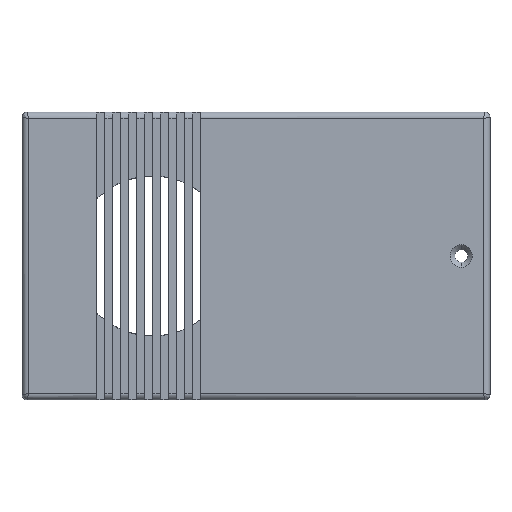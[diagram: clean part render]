
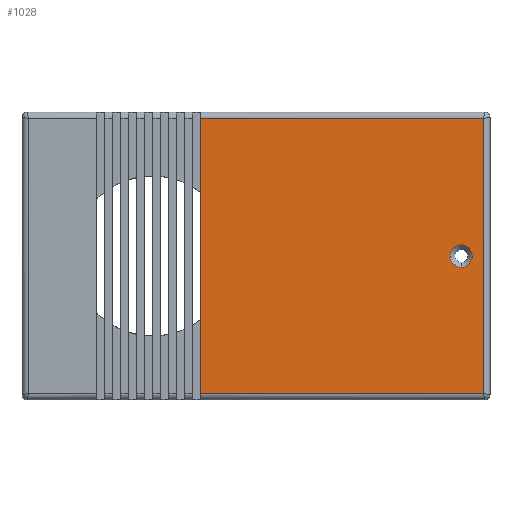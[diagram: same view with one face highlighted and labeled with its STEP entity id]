
A CAD part, front view. The second image highlights one B-rep face of the part: STEP entity #1028.
In plain terms, the highlighted planar face has unit normal (0, -1, 0).
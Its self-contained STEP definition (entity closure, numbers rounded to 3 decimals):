
#25 = ORIENTED_EDGE ( 'NONE', *, *, #2438, .T. ) ;
#147 = VERTEX_POINT ( 'NONE', #1890 ) ;
#182 = VERTEX_POINT ( 'NONE', #1798 ) ;
#202 = VECTOR ( 'NONE', #417, 1000. ) ;
#417 = DIRECTION ( 'NONE',  ( -1., 0., 0. ) ) ;
#650 = CARTESIAN_POINT ( 'NONE',  ( 38.5, 0., 2.1 ) ) ;
#718 = AXIS2_PLACEMENT_3D ( 'NONE', #1049, #2880, #1306 ) ;
#782 = CARTESIAN_POINT ( 'NONE',  ( -10.4, 0., 0. ) ) ;
#786 = CARTESIAN_POINT ( 'NONE',  ( 42.7, 0., -25.8 ) ) ;
#799 = CARTESIAN_POINT ( 'NONE',  ( -10.4, 0., -25.8 ) ) ;
#809 = CIRCLE ( 'NONE', #718, 2.1 ) ;
#819 = AXIS2_PLACEMENT_3D ( 'NONE', #1143, #2966, #1395 ) ;
#842 = VERTEX_POINT ( 'NONE', #1934 ) ;
#877 = LINE ( 'NONE', #3007, #202 ) ;
#878 = VERTEX_POINT ( 'NONE', #650 ) ;
#1028 = ADVANCED_FACE ( 'NONE', ( #1050, #1888 ), #1896, .F. ) ;
#1049 = CARTESIAN_POINT ( 'NONE',  ( 38.5, 0., 0. ) ) ;
#1050 = FACE_BOUND ( 'NONE', #1312, .T. ) ;
#1109 = EDGE_CURVE ( 'NONE', #878, #842, #809, .T. ) ;
#1115 = EDGE_CURVE ( 'NONE', #1172, #182, #2098, .T. ) ;
#1127 = EDGE_CURVE ( 'NONE', #1172, #1397, #2178, .T. ) ;
#1143 = CARTESIAN_POINT ( 'NONE',  ( 0., 0., 0. ) ) ;
#1153 = EDGE_LOOP ( 'NONE', ( #1545, #1607, #1734, #1577 ) ) ;
#1172 = VERTEX_POINT ( 'NONE', #799 ) ;
#1179 = EDGE_CURVE ( 'NONE', #1397, #147, #2010, .T. ) ;
#1222 = EDGE_CURVE ( 'NONE', #147, #182, #877, .T. ) ;
#1306 = DIRECTION ( 'NONE',  ( 0., 0., 1. ) ) ;
#1312 = EDGE_LOOP ( 'NONE', ( #25, #2342 ) ) ;
#1320 = CARTESIAN_POINT ( 'NONE',  ( 42.7, 0., 0. ) ) ;
#1381 = CARTESIAN_POINT ( 'NONE',  ( 38.5, 0., 0. ) ) ;
#1395 = DIRECTION ( 'NONE',  ( 0., 0., 1. ) ) ;
#1397 = VERTEX_POINT ( 'NONE', #786 ) ;
#1415 = VECTOR ( 'NONE', #2618, 1000. ) ;
#1545 = ORIENTED_EDGE ( 'NONE', *, *, #1115, .F. ) ;
#1577 = ORIENTED_EDGE ( 'NONE', *, *, #1222, .T. ) ;
#1607 = ORIENTED_EDGE ( 'NONE', *, *, #1127, .T. ) ;
#1638 = DIRECTION ( 'NONE',  ( 0., 0., 1. ) ) ;
#1734 = ORIENTED_EDGE ( 'NONE', *, *, #1179, .T. ) ;
#1798 = CARTESIAN_POINT ( 'NONE',  ( -10.4, 0., 25.8 ) ) ;
#1827 = DIRECTION ( 'NONE',  ( 0., 0., 1. ) ) ;
#1888 = FACE_OUTER_BOUND ( 'NONE', #1153, .T. ) ;
#1890 = CARTESIAN_POINT ( 'NONE',  ( 42.7, 0., 25.8 ) ) ;
#1896 = PLANE ( 'NONE',  #819 ) ;
#1934 = CARTESIAN_POINT ( 'NONE',  ( 38.5, 0., -2.1 ) ) ;
#2010 = LINE ( 'NONE', #1320, #3312 ) ;
#2078 = DIRECTION ( 'NONE',  ( 1., 0., 0. ) ) ;
#2098 = LINE ( 'NONE', #782, #1415 ) ;
#2178 = LINE ( 'NONE', #2349, #2730 ) ;
#2342 = ORIENTED_EDGE ( 'NONE', *, *, #1109, .T. ) ;
#2349 = CARTESIAN_POINT ( 'NONE',  ( 0., 0., -25.8 ) ) ;
#2393 = AXIS2_PLACEMENT_3D ( 'NONE', #1381, #3202, #1638 ) ;
#2438 = EDGE_CURVE ( 'NONE', #842, #878, #3215, .T. ) ;
#2618 = DIRECTION ( 'NONE',  ( 0., 0., 1. ) ) ;
#2730 = VECTOR ( 'NONE', #2078, 1000. ) ;
#2880 = DIRECTION ( 'NONE',  ( 0., 1., 0. ) ) ;
#2966 = DIRECTION ( 'NONE',  ( 0., 1., 0. ) ) ;
#3007 = CARTESIAN_POINT ( 'NONE',  ( 0., 0., 25.8 ) ) ;
#3202 = DIRECTION ( 'NONE',  ( 0., 1., 0. ) ) ;
#3215 = CIRCLE ( 'NONE', #2393, 2.1 ) ;
#3312 = VECTOR ( 'NONE', #1827, 1000. ) ;
